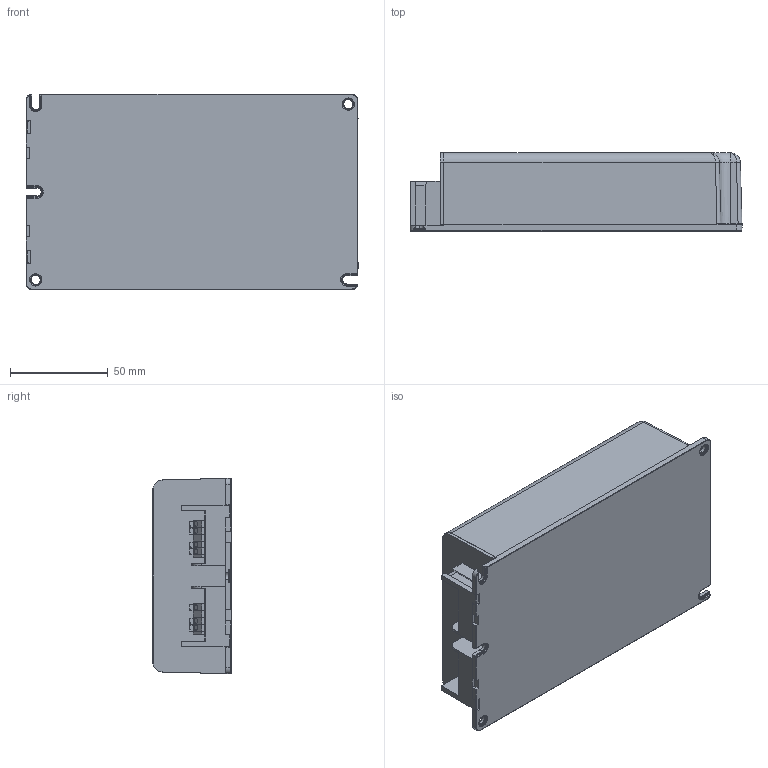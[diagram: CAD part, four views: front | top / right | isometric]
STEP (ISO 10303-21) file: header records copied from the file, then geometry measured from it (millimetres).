
FILE_DESCRIPTION (( 'STEP AP203' ), '1' );
FILE_NAME ('Assem1.STEP', '2023-04-07T13:35:37', ( '' ), ( '' ), 'SwSTEP 2.0', 'SolidWorks 2020', '' );
FILE_SCHEMA (( 'CONFIG_CONTROL_DESIGN' ));
Length unit declared in the file: millimetre
Products named in the file (5): Assem1; Connector; IT DALI 200 1A0 E STEP 300323; Spacer; Connector blind
Assembly tree (12 placements, depth 2):
  Assem1
    IT DALI 200 1A0 E STEP 300323
    Connector  x7
    Connector blind  x2
    Spacer  x2
Bounding box: 170 x 40 x 100 mm (x, y, z)
Volume: 616198.3 mm3; surface area: 60487.6 mm2
Topology: 12 solids, 12 shells, 631 faces, 1550 edges, 929 vertices
Faces by surface type: plane 445, cylinder 106, torus 36, cone 23, bspline 14, sphere 7
Entity records: 12054 total; most frequent: CARTESIAN_POINT 2903, DIRECTION 1768, ORIENTED_EDGE 1762, EDGE_CURVE 881, LINE 606, VECTOR 606, AXIS2_PLACEMENT_3D 581, VERTEX_POINT 535
